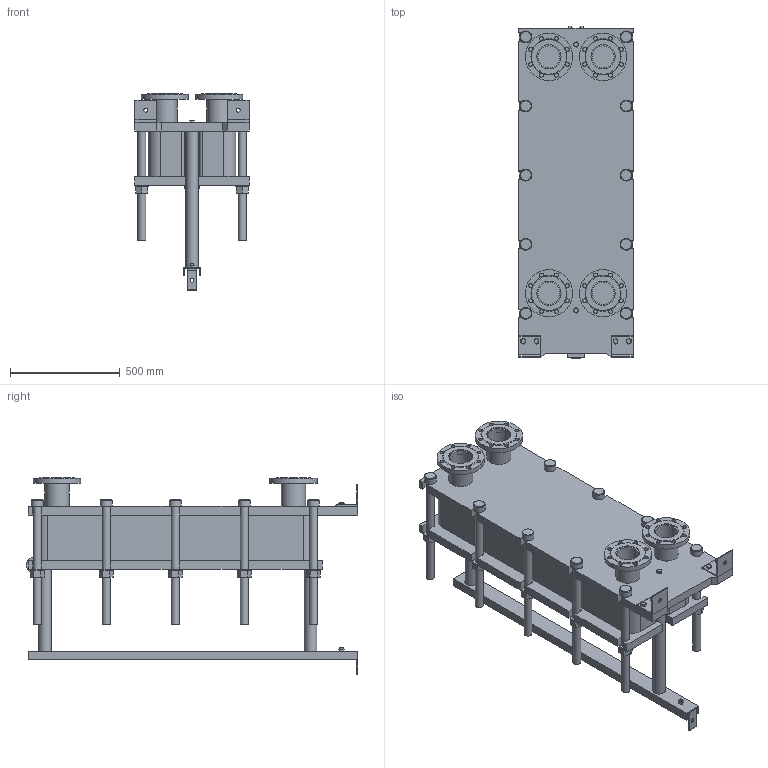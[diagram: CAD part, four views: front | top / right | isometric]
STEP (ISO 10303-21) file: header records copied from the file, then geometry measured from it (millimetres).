
FILE_DESCRIPTION(/* description */ (''),/* implementation_level */ '2;1');
FILE_NAME(/* name */ 'C:\Users\zhuro\Desktop\ENCO\TO\ЭН-04\ЭН-0,5-04-60-1.stp',/* time_stamp */ '2022-06-06T10:49:36+03:00',/* author */ ('zhuro'),/* organization */ (''),/* preprocessor_version */ 'ST-DEVELOPER v18.1',/* originating_system */ 'Autodesk Inventor 2022',/* authorisation */ '');
FILE_SCHEMA (('AUTOMOTIVE_DESIGN { 1 0 10303 214 3 1 1 }'));
Length unit declared in the file: millimetre
Products named in the file (1): ЭН-0,5-04-60-1
Bounding box: 520 x 1510 x 895 mm (x, y, z)
Volume: 172502091.2 mm3; surface area: 7475658.2 mm2
Topology: 45 solids, 45 shells, 668 faces, 1611 edges, 1048 vertices
Faces by surface type: plane 457, cylinder 166, cone 39, torus 6
Full cylindrical faces by diameter (mm): 8 x4, 10 x2, 16 x8, 18 x35, 36 x25, 40 x2, 42 x1, 45 x4, 54 x10, 57 x2, 60 x10, 68 x2, 100 x4, 110 x8, 215 x4
Entity records: 23607 total; most frequent: CARTESIAN_POINT 7348, DIRECTION 3371, ORIENTED_EDGE 3142, EDGE_CURVE 1571, AXIS2_PLACEMENT_3D 1199, VERTEX_POINT 1044, LINE 973, VECTOR 973
